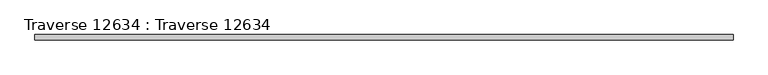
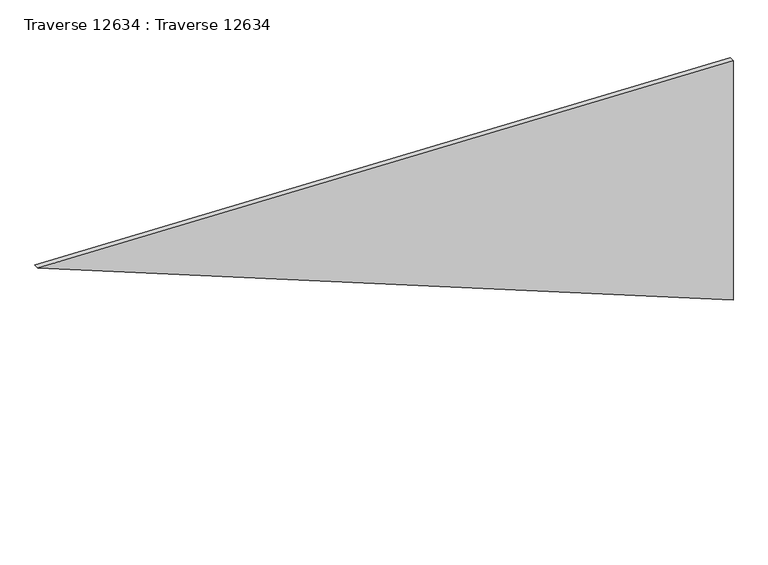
"""IFC4 building model written with IfcOpenShell, lengths in millimetres: beam geometry, Traverse 12634 : Traverse 12634."""

import ifcopenshell
import ifcopenshell.guid

model = None  # the IFC model being written
_history = None  # IfcOwnerHistory: only IFC2X3 demands one
_inside = {}  # id of a spatial element -> (the spatial element, [elements in it])
_under = {}  # id of a project, library or spatial element -> (it, [spatial elements below it])
_declared = {}  # id of a project -> (the project, [libraries it declares])
_typed = {}  # id of a type object -> (the type object, [elements of that type])
_made_of = {}  # id of a material, layer set ... -> (it, [elements and type objects made of it])


def new_model(schema):
    """Start an empty IFC model of exactly this schema.

    Asked for "IFC4X3", IfcOpenShell would pick the latest addendum, in which some entities
    have other attributes; the version numbers below select the first issue.
    IFC2X3 requires an IfcOwnerHistory on every rooted entity: one is made here for all.
    """
    global model, _history
    if schema == "IFC4X3":
        model = ifcopenshell.file(schema_version=(4, 3, 0, 0))
    else:
        model = ifcopenshell.file(schema=schema)
    _inside.clear()
    _under.clear()
    _declared.clear()
    _typed.clear()
    _made_of.clear()
    _history = None
    if model.schema == "IFC2X3":
        org = make("IfcOrganization", Name="unknown")
        user = make(
            "IfcPersonAndOrganization",
            ThePerson=make("IfcPerson", FamilyName="unknown"),
            TheOrganization=org,
        )
        app = make(
            "IfcApplication",
            ApplicationDeveloper=org,
            Version="unknown",
            ApplicationFullName="unknown",
            ApplicationIdentifier="unknown",
        )
        _history = make(
            "IfcOwnerHistory",
            OwningUser=user,
            OwningApplication=app,
            ChangeAction="ADDED",
            CreationDate=0,
        )
    return model


def make(cls, **values):
    """One entity of the class cls with the attributes given. An attribute that is None is left unset."""
    return model.create_entity(
        cls, **{name: value for name, value in values.items() if value is not None}
    )


def rooted(cls, **values):
    """An entity with a GlobalId (a new one), such as an element, a storey or a relation."""
    return make(cls, GlobalId=ifcopenshell.guid.new(), OwnerHistory=_history, **values)


def si_unit(unit_type, name, prefix=None):
    """IfcSIUnit, for example si_unit("LENGTHUNIT", "METRE", prefix="MILLI")."""
    return make("IfcSIUnit", UnitType=unit_type, Prefix=prefix, Name=name)


def assignment(units):
    """IfcUnitAssignment: the units of a project."""
    return None if units is None else make("IfcUnitAssignment", Units=units)


def point(xyz):
    """IfcCartesianPoint."""
    return None if xyz is None else make("IfcCartesianPoint", Coordinates=xyz)


def direction(xyz):
    """IfcDirection."""
    return None if xyz is None else make("IfcDirection", DirectionRatios=xyz)


def frame(location, z_axis=None, x_axis=None):
    """IfcAxis2Placement3D, a coordinate frame: its origin and axes. An axis left out is left unset."""
    return make(
        "IfcAxis2Placement3D",
        Location=point(location),
        Axis=direction(z_axis),
        RefDirection=direction(x_axis),
    )


def origin():
    """The frame at (0, 0, 0) with its axes left unset."""
    return frame((0.0, 0.0, 0.0))


def place(relative_to, where):
    """IfcLocalPlacement: puts the frame where relative to a parent placement (None: the world)."""
    return make(
        "IfcLocalPlacement", PlacementRelTo=relative_to, RelativePlacement=where
    )


def context(
    kind, dimensions, precision=None, world=None, true_north=None, identifier=None
):
    """IfcGeometricRepresentationContext, for example the 3D "Model" context."""
    return make(
        "IfcGeometricRepresentationContext",
        ContextIdentifier=identifier,
        ContextType=kind,
        CoordinateSpaceDimension=dimensions,
        Precision=precision,
        WorldCoordinateSystem=world,
        TrueNorth=true_north,
    )


def project(units=None, contexts=None):
    """IfcProject with its units and contexts."""
    return rooted(
        "IfcProject",
        Name="project",
        RepresentationContexts=contexts,
        UnitsInContext=assignment(units),
    )


def spatial(cls, under=None, at=None, **own):
    """A site, building, storey or space (cls), placed at a placement, below another one or the project."""
    s = rooted(cls, ObjectPlacement=at, **own)
    if under is not None:
        _under.setdefault(under.id(), (under, []))[1].append(s)
    return s


def polyline(points):
    """IfcPolyline through the points."""
    return make("IfcPolyline", Points=[point(p) for p in points])


def outline(outer, holes=None, kind="AREA"):
    """IfcArbitraryClosedProfileDef: a profile drawn as a closed curve; with holes, ...WithVoids."""
    if holes is None:
        return make("IfcArbitraryClosedProfileDef", ProfileType=kind, OuterCurve=outer)
    return make(
        "IfcArbitraryProfileDefWithVoids",
        ProfileType=kind,
        OuterCurve=outer,
        InnerCurves=holes,
    )


def extrude(swept, where, along, depth):
    """IfcExtrudedAreaSolid: the profile swept, set in the frame where, extruded along a direction by depth."""
    return make(
        "IfcExtrudedAreaSolid",
        SweptArea=swept,
        Position=where,
        ExtrudedDirection=direction(along),
        Depth=depth,
    )


def shape(context_of_items, identifier, shape_type, items):
    """IfcShapeRepresentation: the items that make up one representation, for example the "Body"."""
    return make(
        "IfcShapeRepresentation",
        ContextOfItems=context_of_items,
        RepresentationIdentifier=identifier,
        RepresentationType=shape_type,
        Items=items,
    )


def source(mapping_origin, context_of_items, identifier, shape_type, items):
    """IfcRepresentationMap: a shape defined once, which mapped items show again and again."""
    return make(
        "IfcRepresentationMap",
        MappingOrigin=mapping_origin,
        MappedRepresentation=shape(context_of_items, identifier, shape_type, items),
    )


def transform(
    local_origin,
    x_axis=None,
    y_axis=None,
    z_axis=None,
    scale=None,
    scale2=None,
    scale3=None,
    uniform=True,
):
    """IfcCartesianTransformationOperator3D, or its non-uniform kind. x_axis, y_axis, z_axis: its Axis1, 2, 3."""
    if uniform:
        return make(
            "IfcCartesianTransformationOperator3D",
            Axis1=direction(x_axis),
            Axis2=direction(y_axis),
            LocalOrigin=point(local_origin),
            Scale=scale,
            Axis3=direction(z_axis),
        )
    return make(
        "IfcCartesianTransformationOperator3DnonUniform",
        Axis1=direction(x_axis),
        Axis2=direction(y_axis),
        LocalOrigin=point(local_origin),
        Scale=scale,
        Axis3=direction(z_axis),
        Scale2=scale2,
        Scale3=scale3,
    )


def mapped(mapping_source, mapping_target):
    """IfcMappedItem: shows the shape of a source again, moved by a transform."""
    return make(
        "IfcMappedItem", MappingSource=mapping_source, MappingTarget=mapping_target
    )


def made_of(thing, what):
    """Note that an element or type object is made of a material, layer set ...; save() writes the relation."""
    if what is not None:
        _made_of.setdefault(what.id(), (what, []))[1].append(thing)
    return thing


def element(
    cls,
    number,
    at=None,
    inside=None,
    cuts=None,
    type_object=None,
    material=None,
    context=None,
    identifier="Body",
    shape_type=None,
    held_by="IfcProductDefinitionShape",
    body=None,
    shapes=None,
    **own,
):
    """One element of the class cls, such as IfcWall. Its Tag is "e" and its number.

    at: its placement. inside: the storey or other place that contains it. cuts: it is an
    opening in that element (IfcRelVoidsElement). A single representation is given by context,
    identifier, shape_type and body (its items); several are given by shapes. held_by: the class
    of the entity that holds the representations. save() writes the other relations.
    """
    e = rooted(cls, Tag="e%d" % number, ObjectPlacement=at, **own)
    if body is not None:
        shapes = [shape(context, identifier, shape_type, body)]
    if shapes is not None:
        e.Representation = make(held_by, Representations=shapes)
    if inside is not None:
        _inside.setdefault(inside.id(), (inside, []))[1].append(e)
    if cuts is not None:
        rooted(
            "IfcRelVoidsElement", RelatingBuildingElement=cuts, RelatedOpeningElement=e
        )
    if type_object is not None:
        _typed.setdefault(type_object.id(), (type_object, []))[1].append(e)
    return made_of(e, material)


def aggregate(whole, parts):
    """IfcRelAggregates: a whole, such as a stair, and the parts it consists of."""
    return rooted("IfcRelAggregates", RelatingObject=whole, RelatedObjects=parts)


def save(model, path):
    """Write the relations noted so far, then the file.

    IfcRelAggregates (storeys below a building ...), IfcRelContainedInSpatialStructure (elements
    in a storey), IfcRelDefinesByType, IfcRelAssociatesMaterial and IfcRelDeclares: one each for
    every whole, place, type object, material and project.
    """
    for whole, parts in _under.values():
        aggregate(whole, parts)
    for where, things in _inside.values():
        rooted(
            "IfcRelContainedInSpatialStructure",
            RelatedElements=things,
            RelatingStructure=where,
        )
    for kind, things in _typed.values():
        rooted("IfcRelDefinesByType", RelatedObjects=things, RelatingType=kind)
    for what, things in _made_of.values():
        rooted("IfcRelAssociatesMaterial", RelatedObjects=things, RelatingMaterial=what)
    for by, libraries in _declared.values():
        rooted("IfcRelDeclares", RelatingContext=by, RelatedDefinitions=libraries)
    model.write(path)


def traverse_12634_traverse_12634_a5278155(model_context):
    return source(origin(), model_context, "Body", "SweptSolid", [
        extrude(outline(polyline([(6430.0575624, 14819.9999999), (6964.6632281, 14819.9999999), (7016.1126453, 13350.016652), (6430.0575624, 14819.9999999)])), frame((0.0, -125.55, 0.0), z_axis=(0.0, 1.0, 0.0), x_axis=(0.0, 0.0, 1.0)), (0.0, 0.0, 1.0), 11.1),
    ])


if __name__ == "__main__":
    model = new_model("IFC4")
    model_context = context("Model", 3, world=origin())
    ifc_project = project(units=[si_unit("LENGTHUNIT", "METRE", prefix="MILLI")], contexts=[model_context])
    site = spatial("IfcSite", under=ifc_project)
    building = spatial("IfcBuilding", under=site)
    placement = place(None, origin())
    traverse_12634_traverse_12634_shape = traverse_12634_traverse_12634_a5278155(model_context)
    element("IfcBeam", 1, ObjectType="Traverse 12634 : Traverse 12634", at=placement, inside=building, context=model_context, shape_type="MappedRepresentation", body=[
        mapped(traverse_12634_traverse_12634_shape, transform((0.0, 0.0, 0.0), x_axis=(1.0, 0.0, 0.0), y_axis=(0.0, 1.0, 0.0), z_axis=(0.0, 0.0, 1.0))),
    ])
    save(model, "model.ifc")
